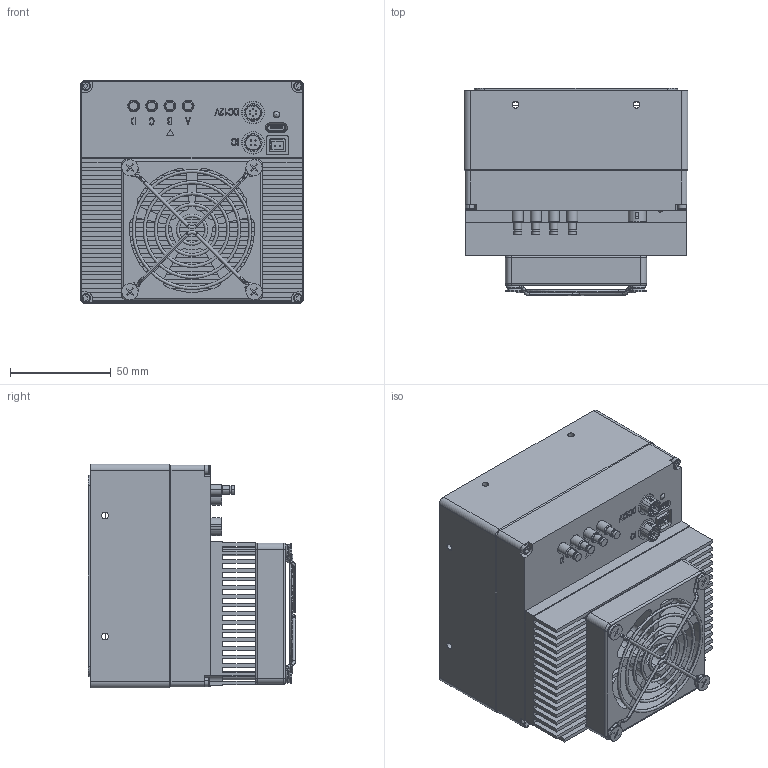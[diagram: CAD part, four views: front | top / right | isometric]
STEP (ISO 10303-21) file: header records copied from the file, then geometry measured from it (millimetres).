
FILE_DESCRIPTION (( 'STEP AP203' ), '1' );
FILE_NAME ('TTS26M-total-asm-20220318.STEP', '2022-12-12T07:13:49', ( '微软用户' ), ( '微软中国' ), 'SwSTEP 2.0', 'SolidWorks 2017', '' );
FILE_SCHEMA (( 'CONFIG_CONTROL_DESIGN' ));
Length unit declared in the file: millimetre
Products named in the file (1): TTS26M-total-asm-20220318
Bounding box: 111 x 102.67 x 111 mm (x, y, z)
Surface area: 137788.5 mm2 (no closed solid volume)
Topology: 0 solids, 78 shells, 804 faces, 2856 edges, 2077 vertices
Faces by surface type: plane 359, cylinder 295, bspline 78, cone 40, torus 24, sphere 8
Entity records: 34078 total; most frequent: CARTESIAN_POINT 10072, DIRECTION 5023, ORIENTED_EDGE 4447, EDGE_CURVE 2831, VERTEX_POINT 2068, AXIS2_PLACEMENT_3D 1681, LINE 1661, VECTOR 1661
